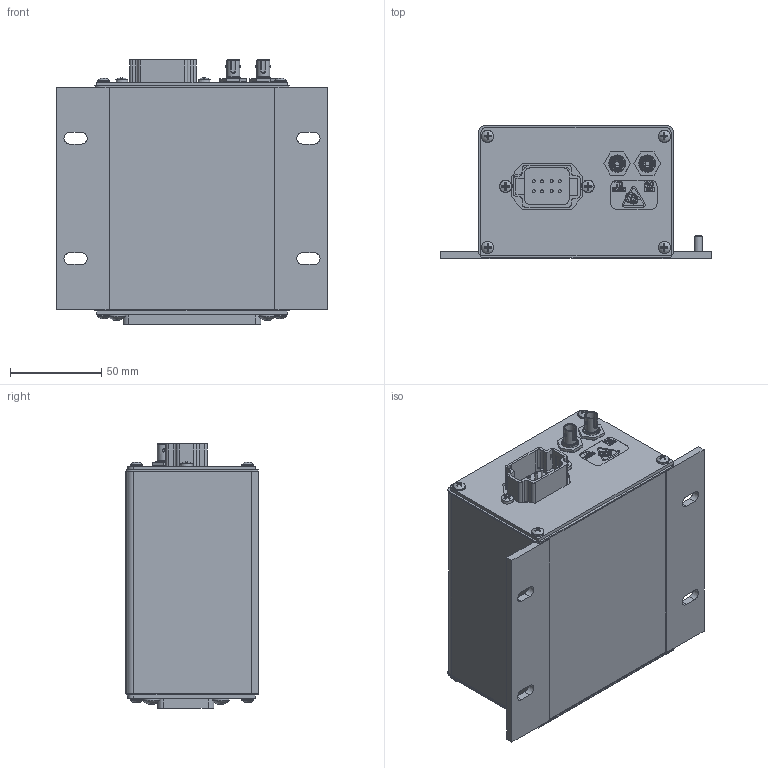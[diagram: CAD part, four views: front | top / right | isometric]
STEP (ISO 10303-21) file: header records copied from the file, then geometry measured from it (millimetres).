
FILE_DESCRIPTION(/* description */ ('625-5333-00 Eight Channel RTD with Fiber Optic '),/* implementation_level */ '2;1');
FILE_NAME(/* name */ 'S:\Projects\RTD8-FO, AX180600, Proj_21019\MECHANICAL\rev A.1\AX180600.stp',/* time_stamp */ '2026-01-16T16:12:35-05:00',/* author */ ('AutoDeskUser'),/* organization */ (''),/* preprocessor_version */ 'ST-DEVELOPER v18.1',/* originating_system */ 'Autodesk Inventor 2021',/* authorisation */ '');
FILE_SCHEMA (('CONFIG_CONTROL_DESIGN'));
Products named in the file (38): AX180600 for STEP; MG-21019-01 for STEP; MMT-CAT-TC1R01; DEUT DRC13-40PA; DRC13-40PA; DRC40P gasket; DRC40P pin guide; GAS-CAT-TEMP01R1; FMT-CAT-TC2R04 ; FMT-21019-01-R1; FMT-10007-01-R1; FHS-M4-10; BROAD HFBR-4411Z ; PL-619X500SSPPU; MS-10-32X375SSPPU; GAS-21019-01-R1; CCT-21019-02 for STEP; DEUT DT13-08PA; BROAD HFBR-2412TZ; BROAD HFBR-1412TZ; DT13-08PA gasket; PL-420X0375SSPPU; CAB-21019-01; TE 55148-1; ground wire; SPAE 175-802; MS-6-32X375SSPPU; S20K75; LBM-SERIAL-01-R2; NLN-M4SSUR; TE 5499923-1; MS-832X375SSPPU; E-HYSOL-7809FR; LBM-SERIAL-01-R2_1; SPAE HN-2004; HBFR washer; Axio logo for STEP 3500 x 4500; LBM-AX180600-02-R1 for STEP
Assembly tree (56 placements, depth 5):
  AX180600 for STEP
    MG-21019-01 for STEP
      MMT-CAT-TC1R01
      DEUT DRC13-40PA
        DRC13-40PA
        DRC40P gasket
        DRC40P pin guide
      GAS-CAT-TEMP01R1  x2
      FMT-CAT-TC2R04 
      FMT-21019-01-R1
        FMT-10007-01-R1
        FHS-M4-10
      BROAD HFBR-4411Z   x2
      PL-619X500SSPPU  x2
      MS-6-32X375SSPPU  x8
      MS-10-32X375SSPPU  x4
      GAS-21019-01-R1
      CCT-21019-02 for STEP
        DEUT DT13-08PA
        BROAD HFBR-2412TZ
        BROAD HFBR-1412TZ
        DT13-08PA gasket
        PL-420X0375SSPPU  x3
        CAB-21019-01
          TE 55148-1  x2
          ground wire
        SPAE 175-802
        MS-6-32X375SSPPU
        S20K75
        LBM-SERIAL-01-R2
      NLN-M4SSUR
      TE 5499923-1
      LBM-SERIAL-01-R2_1  x2
      MS-832X375SSPPU
      E-HYSOL-7809FR
      SPAE HN-2004
      HBFR washer  x2
    Axio logo for STEP 3500 x 4500
    LBM-AX180600-02-R1 for STEP
Bounding box: 149 x 73.13 x 144.96 mm (x, y, z)
Volume: 306990.1 mm3; surface area: 244879.5 mm2
Topology: 76 solids, 76 shells, 4150 faces, 10798 edges, 7140 vertices
Faces by surface type: plane 2631, cylinder 738, bspline 317, cone 234, torus 175, sphere 55
Full cylindrical faces by diameter (mm): 0.46 x8, 0.635 x10, 1.27 x4, 1.5 x4, 1.575 x188, 2.007 x2, 2.286 x2, 2.438 x4, 2.5 x2, 2.54 x6, 2.642 x8, 2.647 x1, 2.845 x3, 3.242 x1, 3.302 x8, 3.386 x1, 3.505 x11, 3.581 x2, 3.962 x11, 4 x6, 4.039 x4, 4.064 x8, 4.14 x2, 4.166 x1, 4.5 x2, 4.826 x9, 4.902 x2, 5 x2, 5.015 x1, 5.359 x4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
Entity records: 127449 total; most frequent: CARTESIAN_POINT 37085, ORIENTED_EDGE 18320, DIRECTION 16958, EDGE_CURVE 9160, LINE 6436, VECTOR 6436, VERTEX_POINT 6066, AXIS2_PLACEMENT_3D 5261
